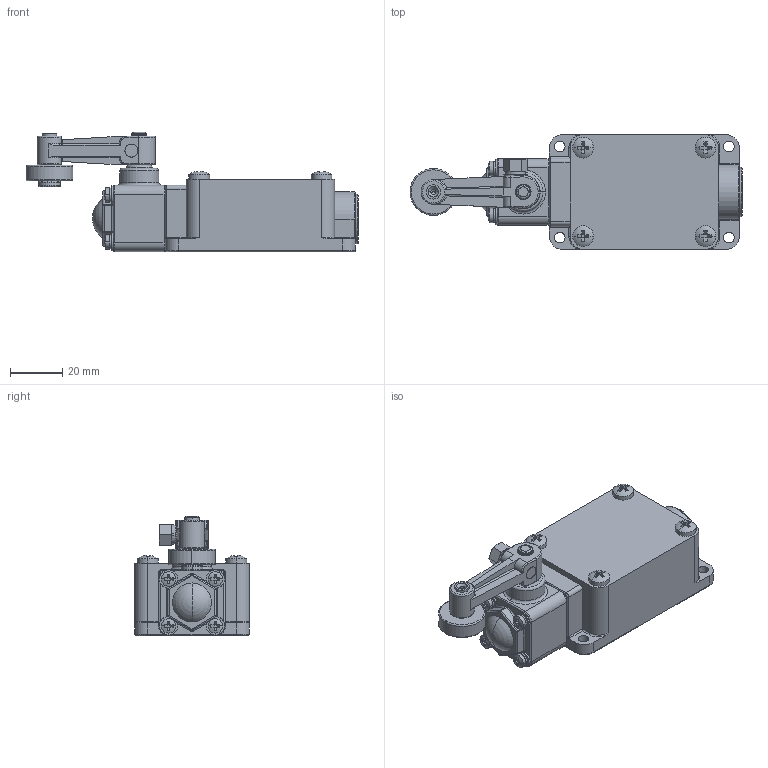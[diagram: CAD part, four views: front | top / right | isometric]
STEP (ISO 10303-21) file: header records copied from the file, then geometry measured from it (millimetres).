
FILE_DESCRIPTION((''),'2;1');
FILE_NAME('26200036P01_SW0001','2025-04-30T',('qinxiong.ji'),(''),'PRO/ENGINEER BY PARAMETRIC TECHNOLOGY CORPORATION, 2015440','PRO/ENGINEER BY PARAMETRIC TECHNOLOGY CORPORATION, 2015440','');
FILE_SCHEMA(('CONFIG_CONTROL_DESIGN'));
Length unit declared in the file: millimetre
Products named in the file (1): 26200036P01_SW0001
Bounding box: 127.5 x 44 x 45.8 mm (x, y, z)
Volume: 98264.1 mm3; surface area: 22132.8 mm2
Topology: 2 solids, 6 shells, 607 faces, 1496 edges, 923 vertices
Faces by surface type: plane 296, cylinder 177, torus 75, sphere 28, cone 27, bspline 4
Entity records: 19666 total; most frequent: CARTESIAN_POINT 5068, DIRECTION 3202, ORIENTED_EDGE 2984, EDGE_CURVE 1492, AXIS2_PLACEMENT_3D 1265, VERTEX_POINT 923, VECTOR 672, LINE 672
